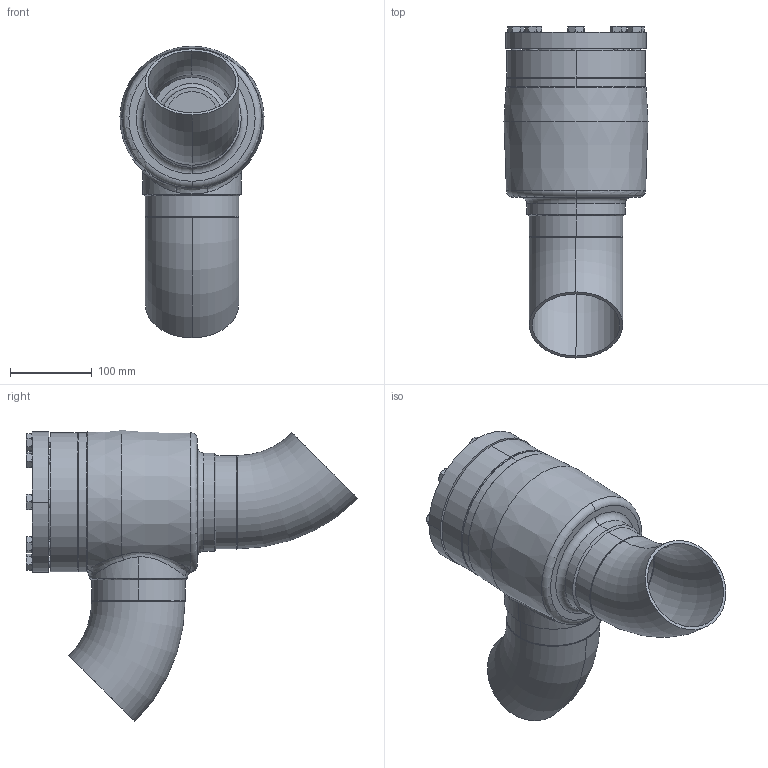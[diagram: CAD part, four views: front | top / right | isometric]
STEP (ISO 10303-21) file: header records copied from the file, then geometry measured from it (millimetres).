
FILE_DESCRIPTION (( 'STEP AP214' ), '1' );
FILE_NAME ('RV28300D19-DN100_R1_PS40.STEP', '2007-01-08T07:35:48', ( 'Herr Grams' ), ( 'AWP GmbH' ), 'SwSTEP 2.0', 'SolidWorks 2002296', '' );
FILE_SCHEMA (( 'AUTOMOTIVE_DESIGN' ));
Length unit declared in the file: millimetre
Products named in the file (12): RV28300D19-DN100_R1_PS40; Gehäuse-kpl16300-DN100_R1_Standard; Gehäuse-kpl16400-DN100_R1_Standard; Kopfstück16300-DN100_Standard; Gehäuse16400-DN100_Standard; bead-DN100-1_Standard; Rohrbogen 45°_Rohrbogen-DN100-45°; bead-DN100-3_Standard; bead-DN100-2_Standard; RV28300E19_Deck+Schr-DN100_Standard; Deckel28300E19-DN100_Standard; Sechskantschraube-DIN933_M12x 35
Assembly tree (19 placements, depth 4):
  RV28300D19-DN100_R1_PS40
    Gehäuse-kpl16300-DN100_R1_Standard
      Rohrbogen 45°_Rohrbogen-DN100-45°  x2
      bead-DN100-3_Standard
      Gehäuse-kpl16400-DN100_R1_Standard
        Gehäuse16400-DN100_Standard
        Kopfstück16300-DN100_Standard
        bead-DN100-1_Standard
      bead-DN100-2_Standard
    RV28300E19_Deck+Schr-DN100_Standard
      Sechskantschraube-DIN933_M12x 35  x8
      Deckel28300E19-DN100_Standard
Bounding box: 176.38 x 406.39 x 357.12 mm (x, y, z)
Volume: 2998525.7 mm3; surface area: 579700.9 mm2
Topology: 16 solids, 16 shells, 317 faces, 678 edges, 407 vertices
Faces by surface type: cone 124, plane 96, cylinder 65, bspline 18, torus 14
Entity records: 16910 total; most frequent: CARTESIAN_POINT 13255, DIRECTION 653, ORIENTED_EDGE 604, EDGE_CURVE 302, AXIS2_PLACEMENT_3D 293, VERTEX_POINT 189, EDGE_LOOP 173, CIRCLE 150
